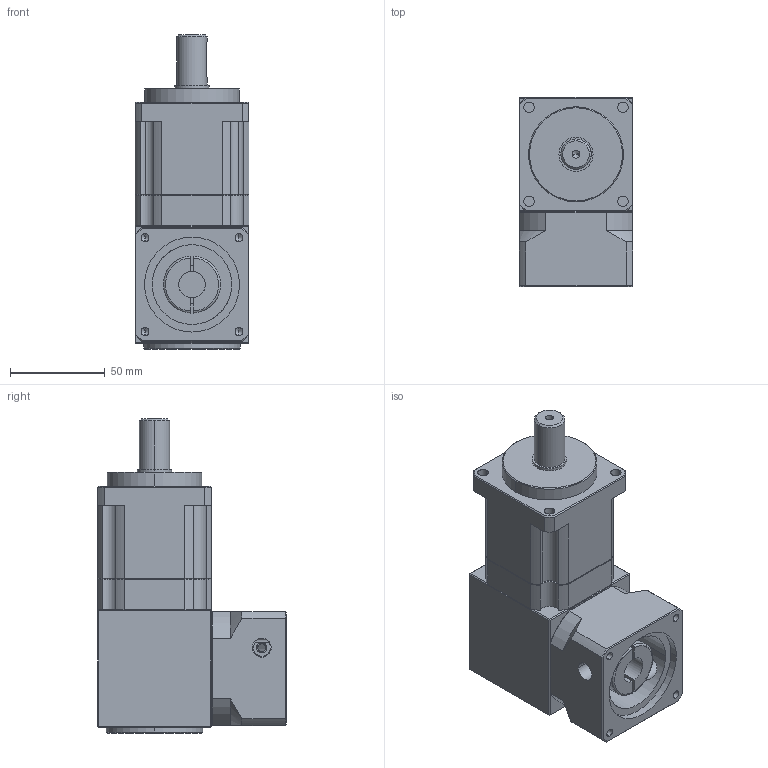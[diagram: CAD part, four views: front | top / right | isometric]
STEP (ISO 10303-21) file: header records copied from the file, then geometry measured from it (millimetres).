
FILE_DESCRIPTION (( 'STEP AP203' ), '1' );
FILE_NAME ('KHL60-L2£r50PCD£r70M5.STEP', '2014-02-21T08:13:02', ( 'KELLY' ), ( '' ), 'SwSTEP 2.0', 'SolidWorks 2012', '' );
FILE_SCHEMA (( 'CONFIG_CONTROL_DESIGN' ));
Length unit declared in the file: millimetre
Products named in the file (1): KHL60-L2｣r50PCD｣r70M5
Bounding box: 60 x 99.5 x 165.5 mm (x, y, z)
Volume: 550401.5 mm3; surface area: 79827.9 mm2
Topology: 4 solids, 4 shells, 231 faces, 561 edges, 342 vertices
Faces by surface type: cylinder 95, plane 86, cone 46, torus 4
Entity records: 7294 total; most frequent: CARTESIAN_POINT 1794, DIRECTION 1164, ORIENTED_EDGE 1102, EDGE_CURVE 551, AXIS2_PLACEMENT_3D 453, VERTEX_POINT 342, EDGE_LOOP 265, VECTOR 258
